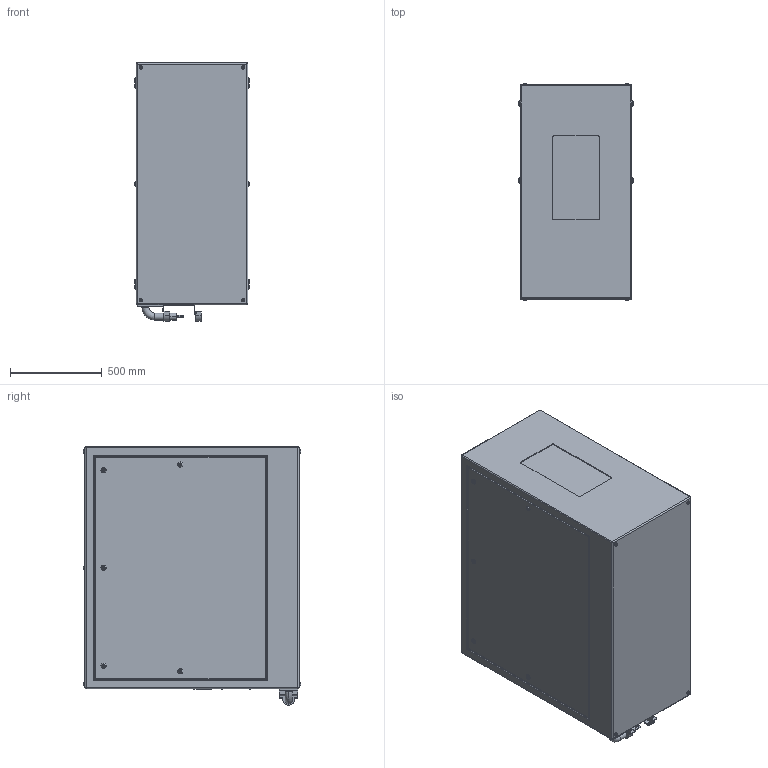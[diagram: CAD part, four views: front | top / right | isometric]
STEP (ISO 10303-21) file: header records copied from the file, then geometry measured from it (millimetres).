
FILE_DESCRIPTION (( 'STEP AP214' ), '1' );
FILE_NAME ('Oasis 59.250.P R02.STEP', '2022-09-12T23:40:04', ( '' ), ( '' ), 'SwSTEP 2.0', 'SolidWorks 2020', '' );
FILE_SCHEMA (( 'AUTOMOTIVE_DESIGN' ));
Length unit declared in the file: inch
Products named in the file (1): Oasis 59.250.P R02
Bounding box: 622.3 x 1185.67 x 1409.7 mm (x, y, z)
Volume: 939744985 mm3; surface area: 6770597.9 mm2
Topology: 3 solids, 9 shells, 570 faces, 1301 edges, 826 vertices
Faces by surface type: plane 315, cylinder 193, torus 54, bspline 8
Entity records: 21891 total; most frequent: CARTESIAN_POINT 3210, DIRECTION 2843, ORIENTED_EDGE 2586, EDGE_CURVE 1293, AXIS2_PLACEMENT_3D 1019, VERTEX_POINT 826, LINE 805, VECTOR 805
